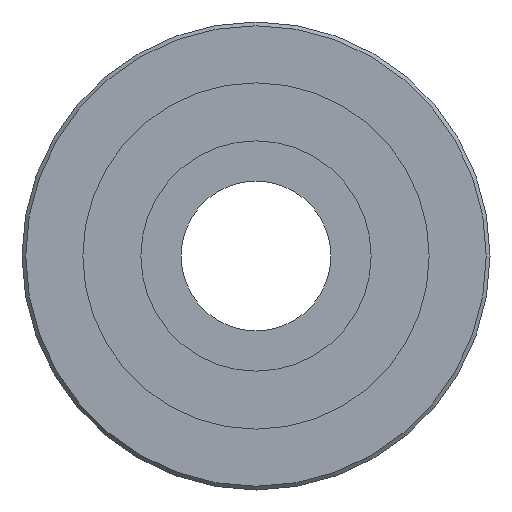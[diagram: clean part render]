
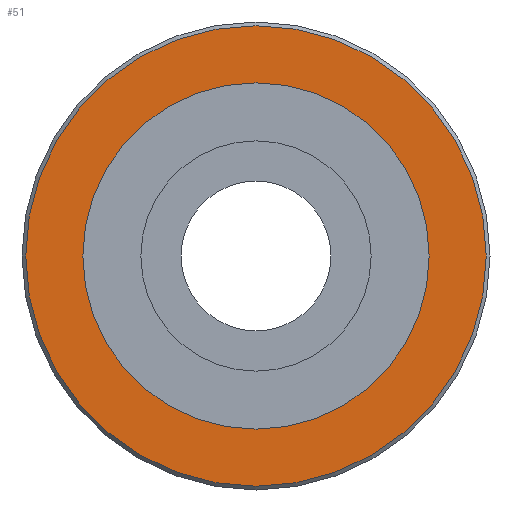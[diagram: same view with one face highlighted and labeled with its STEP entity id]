
A CAD part, left-side view. The second image highlights one B-rep face of the part: STEP entity #51.
In plain terms, the highlighted planar face has unit normal (-1, 0, 0).
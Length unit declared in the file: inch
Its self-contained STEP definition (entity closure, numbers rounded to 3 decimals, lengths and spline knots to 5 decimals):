
#24=CARTESIAN_POINT('',(11.25,33.45,0.));
#25=VERTEX_POINT('',#24);
#26=CARTESIAN_POINT('',(11.25,21.15,0.));
#27=DIRECTION('',(-1.,0.,0.));
#28=DIRECTION('',(0.,1.,0.));
#29=AXIS2_PLACEMENT_3D('',#26,#27,#28);
#30=CIRCLE('',#29,12.3);
#31=EDGE_CURVE('',#25,#25,#30,.T.);
#32=ORIENTED_EDGE('',*,*,#31,.T.);
#33=EDGE_LOOP('',(#32));
#34=FACE_OUTER_BOUND('',#33,.T.);
#35=CARTESIAN_POINT('',(11.25,30.4,0.));
#36=VERTEX_POINT('',#35);
#37=CARTESIAN_POINT('',(11.25,21.15,0.));
#38=DIRECTION('',(-1.,0.,0.));
#39=DIRECTION('',(0.,1.,0.));
#40=AXIS2_PLACEMENT_3D('',#37,#38,#39);
#41=CIRCLE('',#40,9.25);
#42=EDGE_CURVE('',#36,#36,#41,.T.);
#43=ORIENTED_EDGE('',*,*,#42,.F.);
#44=EDGE_LOOP('',(#43));
#45=FACE_BOUND('',#44,.T.);
#46=CARTESIAN_POINT('',(11.25,31.925,0.));
#47=DIRECTION('',(-1.,0.,0.));
#48=DIRECTION('',(0.,1.,0.));
#49=AXIS2_PLACEMENT_3D('',#46,#47,#48);
#50=PLANE('',#49);
#51=ADVANCED_FACE('',(#34,#45),#50,.T.);
